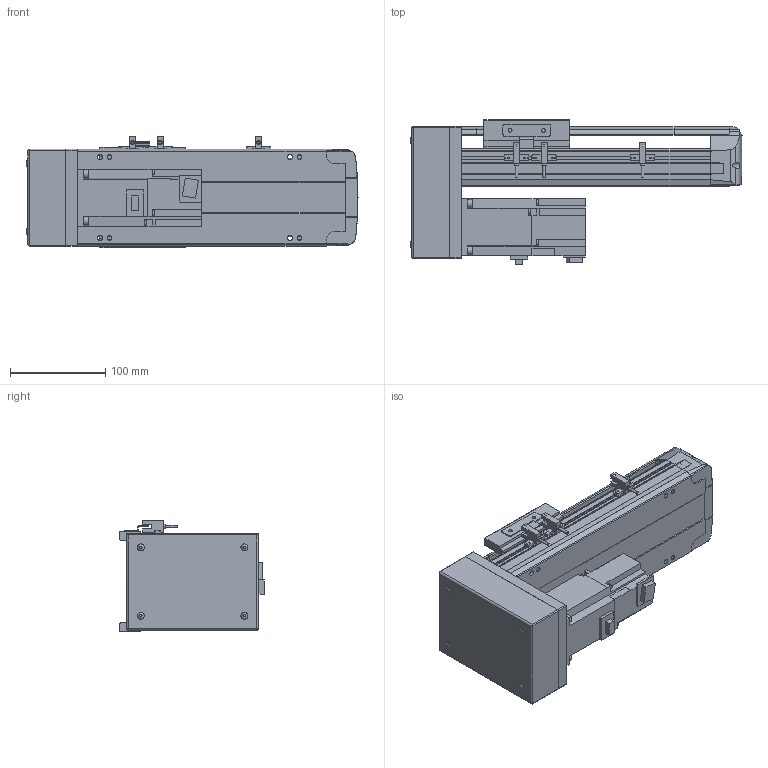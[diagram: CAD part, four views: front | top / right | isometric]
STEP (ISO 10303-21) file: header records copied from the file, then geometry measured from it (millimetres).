
FILE_DESCRIPTION(/* description */ ('STEP AP214'),/* implementation_level */ '2;1');
FILE_NAME(/* name */ 'PSS120-L10-S100-BM-T40-C1-N(0)',/* time_stamp */ '2022-06-06T02:25:25+02:00',/* author */ ('License CC BY-ND 4.0'),/* organization */ ('CADENAS'),/* preprocessor_version */ 'ST-DEVELOPER v18.102',/* originating_system */ 'PARTsolutions',/* authorisation */ ' ');
FILE_SCHEMA (('AUTOMOTIVE_DESIGN {1 0 10303 214 3 1 1}'));
Length unit declared in the file: millimetre
Products named in the file (8): PSS120-L10-S100-BM-T40-C1-N(0); PSS120-S100-BM-N_S; T40-p1; PSS120BM-N_h; PSS120-N_sensor; PSS120-BM-C1-N_sl; PSS120-N_Q; PSS120-S100-BM-C1-N_body
Assembly tree (9 placements, depth 2):
  PSS120-L10-S100-BM-T40-C1-N(0)
    PSS120-S100-BM-N_S
    T40-p1
    PSS120BM-N_h
    PSS120-N_sensor  x3
    PSS120-BM-C1-N_sl
    PSS120-N_Q
    PSS120-S100-BM-C1-N_body
Bounding box: 349.35 x 151.8 x 117.7 mm (x, y, z)
Volume: 2151022.3 mm3; surface area: 338391.6 mm2
Topology: 9 solids, 9 shells, 777 faces, 2101 edges, 1396 vertices
Faces by surface type: plane 556, cylinder 205, cone 12, sphere 4
Full cylindrical faces by diameter (mm): 2.8 x3, 4 x4, 4.134 x8, 4.4 x2, 4.5 x4, 4.6 x3, 5 x6, 5.5 x11, 7 x2, 7.4 x4, 8 x4, 8.5 x8, 14 x1, 28 x1, 32 x2, 50 x1
Entity records: 20981 total; most frequent: CARTESIAN_POINT 3792, DIRECTION 3483, ORIENTED_EDGE 3454, EDGE_CURVE 1727, LINE 1265, VECTOR 1265, VERTEX_POINT 1190, AXIS2_PLACEMENT_3D 1109
